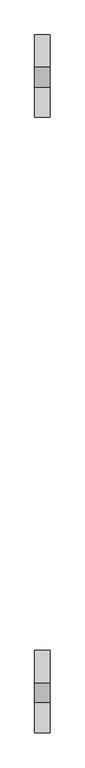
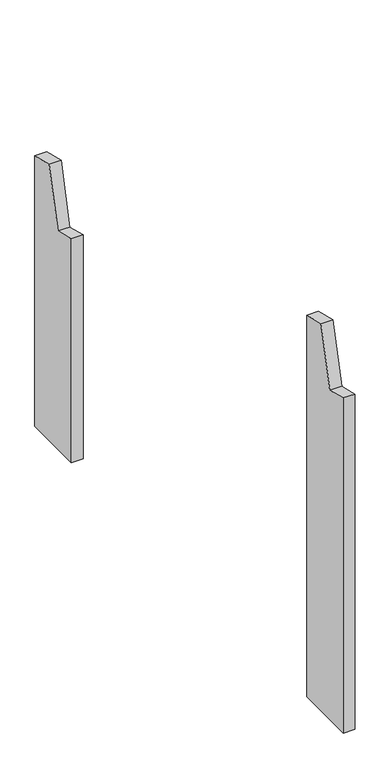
"""IFC4 building model written with IfcOpenShell, lengths in millimetres: proxy geometry, Modelos genéricos 126 : Modelos genéricos 5."""

import ifcopenshell
import ifcopenshell.guid

model = None  # the IFC model being written
_history = None  # IfcOwnerHistory: only IFC2X3 demands one
_inside = {}  # id of a spatial element -> (the spatial element, [elements in it])
_under = {}  # id of a project, library or spatial element -> (it, [spatial elements below it])
_declared = {}  # id of a project -> (the project, [libraries it declares])
_typed = {}  # id of a type object -> (the type object, [elements of that type])
_made_of = {}  # id of a material, layer set ... -> (it, [elements and type objects made of it])


def new_model(schema):
    """Start an empty IFC model of exactly this schema.

    Asked for "IFC4X3", IfcOpenShell would pick the latest addendum, in which some entities
    have other attributes; the version numbers below select the first issue.
    IFC2X3 requires an IfcOwnerHistory on every rooted entity: one is made here for all.
    """
    global model, _history
    if schema == "IFC4X3":
        model = ifcopenshell.file(schema_version=(4, 3, 0, 0))
    else:
        model = ifcopenshell.file(schema=schema)
    _inside.clear()
    _under.clear()
    _declared.clear()
    _typed.clear()
    _made_of.clear()
    _history = None
    if model.schema == "IFC2X3":
        org = make("IfcOrganization", Name="unknown")
        user = make(
            "IfcPersonAndOrganization",
            ThePerson=make("IfcPerson", FamilyName="unknown"),
            TheOrganization=org,
        )
        app = make(
            "IfcApplication",
            ApplicationDeveloper=org,
            Version="unknown",
            ApplicationFullName="unknown",
            ApplicationIdentifier="unknown",
        )
        _history = make(
            "IfcOwnerHistory",
            OwningUser=user,
            OwningApplication=app,
            ChangeAction="ADDED",
            CreationDate=0,
        )
    return model


def make(cls, **values):
    """One entity of the class cls with the attributes given. An attribute that is None is left unset."""
    return model.create_entity(
        cls, **{name: value for name, value in values.items() if value is not None}
    )


def rooted(cls, **values):
    """An entity with a GlobalId (a new one), such as an element, a storey or a relation."""
    return make(cls, GlobalId=ifcopenshell.guid.new(), OwnerHistory=_history, **values)


def si_unit(unit_type, name, prefix=None):
    """IfcSIUnit, for example si_unit("LENGTHUNIT", "METRE", prefix="MILLI")."""
    return make("IfcSIUnit", UnitType=unit_type, Prefix=prefix, Name=name)


def assignment(units):
    """IfcUnitAssignment: the units of a project."""
    return None if units is None else make("IfcUnitAssignment", Units=units)


def point(xyz):
    """IfcCartesianPoint."""
    return None if xyz is None else make("IfcCartesianPoint", Coordinates=xyz)


def direction(xyz):
    """IfcDirection."""
    return None if xyz is None else make("IfcDirection", DirectionRatios=xyz)


def frame(location, z_axis=None, x_axis=None):
    """IfcAxis2Placement3D, a coordinate frame: its origin and axes. An axis left out is left unset."""
    return make(
        "IfcAxis2Placement3D",
        Location=point(location),
        Axis=direction(z_axis),
        RefDirection=direction(x_axis),
    )


def origin():
    """The frame at (0, 0, 0) with its axes left unset."""
    return frame((0.0, 0.0, 0.0))


def place(relative_to, where):
    """IfcLocalPlacement: puts the frame where relative to a parent placement (None: the world)."""
    return make(
        "IfcLocalPlacement", PlacementRelTo=relative_to, RelativePlacement=where
    )


def context(
    kind, dimensions, precision=None, world=None, true_north=None, identifier=None
):
    """IfcGeometricRepresentationContext, for example the 3D "Model" context."""
    return make(
        "IfcGeometricRepresentationContext",
        ContextIdentifier=identifier,
        ContextType=kind,
        CoordinateSpaceDimension=dimensions,
        Precision=precision,
        WorldCoordinateSystem=world,
        TrueNorth=true_north,
    )


def project(units=None, contexts=None):
    """IfcProject with its units and contexts."""
    return rooted(
        "IfcProject",
        Name="project",
        RepresentationContexts=contexts,
        UnitsInContext=assignment(units),
    )


def spatial(cls, under=None, at=None, **own):
    """A site, building, storey or space (cls), placed at a placement, below another one or the project."""
    s = rooted(cls, ObjectPlacement=at, **own)
    if under is not None:
        _under.setdefault(under.id(), (under, []))[1].append(s)
    return s


def polyline(points):
    """IfcPolyline through the points."""
    return make("IfcPolyline", Points=[point(p) for p in points])


def outline(outer, holes=None, kind="AREA"):
    """IfcArbitraryClosedProfileDef: a profile drawn as a closed curve; with holes, ...WithVoids."""
    if holes is None:
        return make("IfcArbitraryClosedProfileDef", ProfileType=kind, OuterCurve=outer)
    return make(
        "IfcArbitraryProfileDefWithVoids",
        ProfileType=kind,
        OuterCurve=outer,
        InnerCurves=holes,
    )


def extrude(swept, where, along, depth):
    """IfcExtrudedAreaSolid: the profile swept, set in the frame where, extruded along a direction by depth."""
    return make(
        "IfcExtrudedAreaSolid",
        SweptArea=swept,
        Position=where,
        ExtrudedDirection=direction(along),
        Depth=depth,
    )


def shape(context_of_items, identifier, shape_type, items):
    """IfcShapeRepresentation: the items that make up one representation, for example the "Body"."""
    return make(
        "IfcShapeRepresentation",
        ContextOfItems=context_of_items,
        RepresentationIdentifier=identifier,
        RepresentationType=shape_type,
        Items=items,
    )


def source(mapping_origin, context_of_items, identifier, shape_type, items):
    """IfcRepresentationMap: a shape defined once, which mapped items show again and again."""
    return make(
        "IfcRepresentationMap",
        MappingOrigin=mapping_origin,
        MappedRepresentation=shape(context_of_items, identifier, shape_type, items),
    )


def transform(
    local_origin,
    x_axis=None,
    y_axis=None,
    z_axis=None,
    scale=None,
    scale2=None,
    scale3=None,
    uniform=True,
):
    """IfcCartesianTransformationOperator3D, or its non-uniform kind. x_axis, y_axis, z_axis: its Axis1, 2, 3."""
    if uniform:
        return make(
            "IfcCartesianTransformationOperator3D",
            Axis1=direction(x_axis),
            Axis2=direction(y_axis),
            LocalOrigin=point(local_origin),
            Scale=scale,
            Axis3=direction(z_axis),
        )
    return make(
        "IfcCartesianTransformationOperator3DnonUniform",
        Axis1=direction(x_axis),
        Axis2=direction(y_axis),
        LocalOrigin=point(local_origin),
        Scale=scale,
        Axis3=direction(z_axis),
        Scale2=scale2,
        Scale3=scale3,
    )


def mapped(mapping_source, mapping_target):
    """IfcMappedItem: shows the shape of a source again, moved by a transform."""
    return make(
        "IfcMappedItem", MappingSource=mapping_source, MappingTarget=mapping_target
    )


def made_of(thing, what):
    """Note that an element or type object is made of a material, layer set ...; save() writes the relation."""
    if what is not None:
        _made_of.setdefault(what.id(), (what, []))[1].append(thing)
    return thing


def element(
    cls,
    number,
    at=None,
    inside=None,
    cuts=None,
    type_object=None,
    material=None,
    context=None,
    identifier="Body",
    shape_type=None,
    held_by="IfcProductDefinitionShape",
    body=None,
    shapes=None,
    **own,
):
    """One element of the class cls, such as IfcWall. Its Tag is "e" and its number.

    at: its placement. inside: the storey or other place that contains it. cuts: it is an
    opening in that element (IfcRelVoidsElement). A single representation is given by context,
    identifier, shape_type and body (its items); several are given by shapes. held_by: the class
    of the entity that holds the representations. save() writes the other relations.
    """
    e = rooted(cls, Tag="e%d" % number, ObjectPlacement=at, **own)
    if body is not None:
        shapes = [shape(context, identifier, shape_type, body)]
    if shapes is not None:
        e.Representation = make(held_by, Representations=shapes)
    if inside is not None:
        _inside.setdefault(inside.id(), (inside, []))[1].append(e)
    if cuts is not None:
        rooted(
            "IfcRelVoidsElement", RelatingBuildingElement=cuts, RelatedOpeningElement=e
        )
    if type_object is not None:
        _typed.setdefault(type_object.id(), (type_object, []))[1].append(e)
    return made_of(e, material)


def aggregate(whole, parts):
    """IfcRelAggregates: a whole, such as a stair, and the parts it consists of."""
    return rooted("IfcRelAggregates", RelatingObject=whole, RelatedObjects=parts)


def save(model, path):
    """Write the relations noted so far, then the file.

    IfcRelAggregates (storeys below a building ...), IfcRelContainedInSpatialStructure (elements
    in a storey), IfcRelDefinesByType, IfcRelAssociatesMaterial and IfcRelDeclares: one each for
    every whole, place, type object, material and project.
    """
    for whole, parts in _under.values():
        aggregate(whole, parts)
    for where, things in _inside.values():
        rooted(
            "IfcRelContainedInSpatialStructure",
            RelatedElements=things,
            RelatingStructure=where,
        )
    for kind, things in _typed.values():
        rooted("IfcRelDefinesByType", RelatedObjects=things, RelatingType=kind)
    for what, things in _made_of.values():
        rooted("IfcRelAssociatesMaterial", RelatedObjects=things, RelatingMaterial=what)
    for by, libraries in _declared.values():
        rooted("IfcRelDeclares", RelatingContext=by, RelatedDefinitions=libraries)
    model.write(path)


def generic_models_a595523c(model_context):
    return source(origin(), model_context, "Body", "SweptSolid", [
        extrude(outline(polyline([(3268.6238165, 3000.0), (3268.6238165, 3898.0915281), (3326.8415601, 3883.5762143), (3365.5490634, 4038.8235305), (3428.6238165, 4023.0972283), (3428.6238165, 3000.0), (3268.6238165, 3000.0)])), frame((9283.4472467, 0.0, 0.0), z_axis=(1.0, 0.0, 0.0), x_axis=(0.0, 1.0, 0.0)), (0.0, 0.0, 1.0), 30.0),
        extrude(outline(polyline([(4463.6238165, 3000.0), (4463.6238165, 3600.1445647), (4521.8415601, 3585.6292509), (4560.5490634, 3740.8765671), (4623.6238165, 3725.1502649), (4623.6238165, 3000.0), (4463.6238165, 3000.0)])), frame((9283.4472467, 0.0, 0.0), z_axis=(1.0, 0.0, 0.0), x_axis=(0.0, 1.0, 0.0)), (0.0, 0.0, 1.0), 30.0),
    ])


if __name__ == "__main__":
    model = new_model("IFC4")
    model_context = context("Model", 3, world=origin())
    ifc_project = project(units=[si_unit("LENGTHUNIT", "METRE", prefix="MILLI")], contexts=[model_context])
    site = spatial("IfcSite", under=ifc_project)
    building = spatial("IfcBuilding", under=site)
    placement = place(None, origin())
    generic_models_shape = generic_models_a595523c(model_context)
    element("IfcBuildingElementProxy", 1, Name="Modelos genéricos 126 : Modelos genéricos 5", ObjectType="Modelos genéricos 126 : Modelos genéricos 5", at=placement, inside=building, context=model_context, shape_type="MappedRepresentation", body=[
        mapped(generic_models_shape, transform((0.0, 0.0, 0.0), x_axis=(1.0, 0.0, 0.0), y_axis=(0.0, 1.0, 0.0), z_axis=(0.0, 0.0, 1.0))),
    ])
    save(model, "model.ifc")
